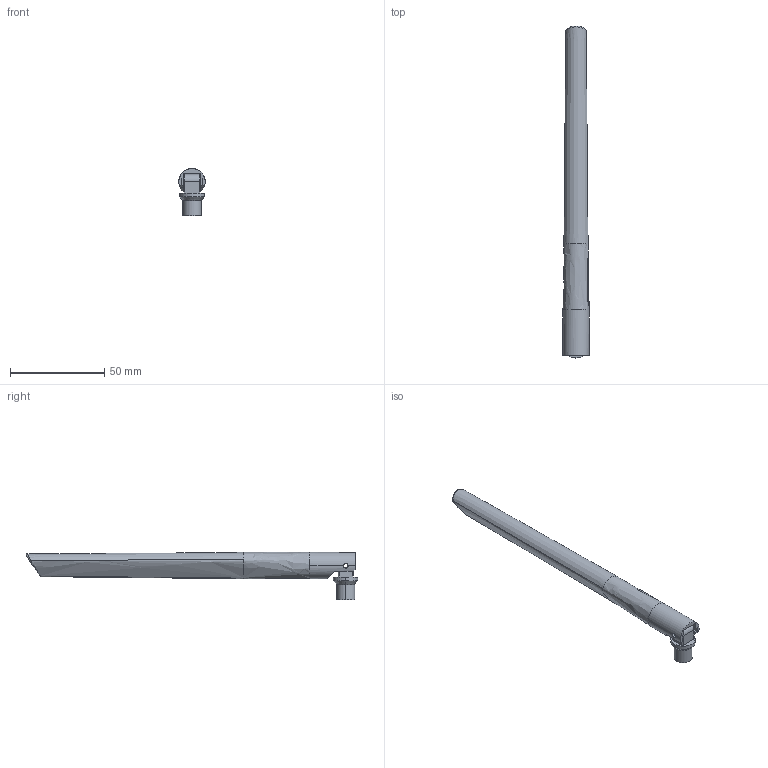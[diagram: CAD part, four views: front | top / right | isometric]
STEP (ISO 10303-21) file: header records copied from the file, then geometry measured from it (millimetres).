
FILE_DESCRIPTION (( 'STEP AP214' ), '1' );
FILE_NAME ('WiFi Antenna.STEP', '2019-02-07T12:47:20', ( '' ), ( '' ), 'SwSTEP 2.0', 'SolidWorks 2018', '' );
FILE_SCHEMA (( 'AUTOMOTIVE_DESIGN' ));
Length unit declared in the file: millimetre
Products named in the file (3): WiFi Antenna; WiFi Antenna 2
Assembly tree (2 placements, depth 2):
  WiFi Antenna
    WiFi Antenna 2
    WiFi Antenna
Bounding box: 14 x 176.05 x 25.07 mm (x, y, z)
Volume: 20480.8 mm3; surface area: 8258.1 mm2
Topology: 2 solids, 2 shells, 74 faces, 185 edges, 110 vertices
Faces by surface type: plane 26, cylinder 20, bspline 20, cone 4, torus 4
Entity records: 3479 total; most frequent: CARTESIAN_POINT 1754, ORIENTED_EDGE 362, DIRECTION 306, EDGE_CURVE 181, AXIS2_PLACEMENT_3D 112, VERTEX_POINT 110, LINE 82, VECTOR 82
